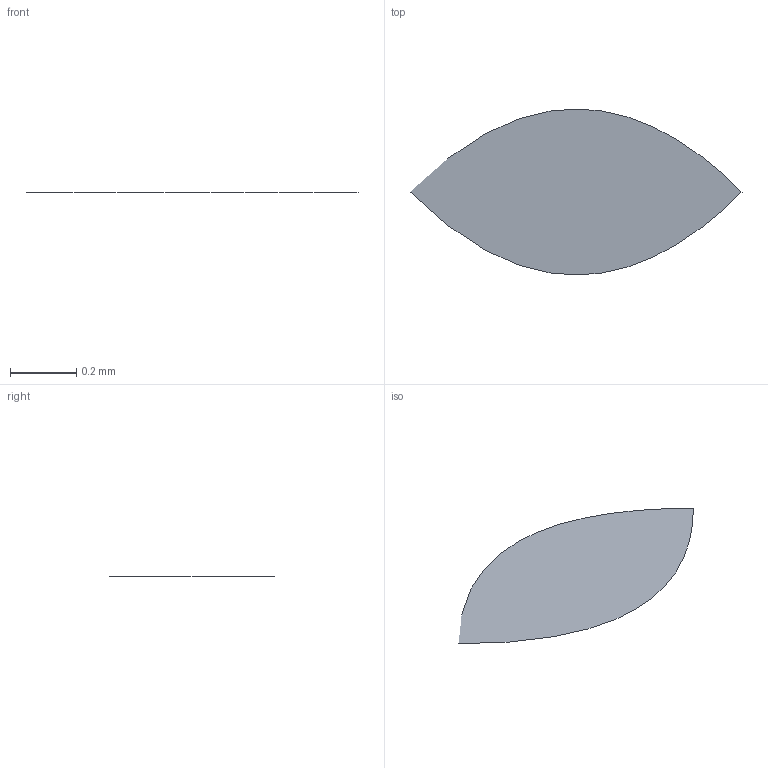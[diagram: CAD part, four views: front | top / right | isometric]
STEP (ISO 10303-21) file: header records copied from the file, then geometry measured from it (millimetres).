
FILE_DESCRIPTION(('BRL-CAD AP214 two-side singular corner fixture'),'2;1');
FILE_NAME('ap214_two_side_singular_corner.stp','2026-07-23T00:00:00',('BRL-CAD'),('BRL-CAD'),'','','');
FILE_SCHEMA(('AUTOMOTIVE_DESIGN { 1 0 10303 214 3 1 1 1 }'));
Length unit declared in the file: millimetre
Products named in the file (1): two_side_singular_corner
Bounding box: 1 x 0.5 x 0 mm (x, y, z)
Surface area: 0.3 mm2 (no closed solid volume)
Topology: 0 solids, 1 shells, 1 faces, 3 edges, 2 vertices
Faces by surface type: bspline 1
Entity records: 30 total; most frequent: CARTESIAN_POINT 5, VERTEX_POINT 2, B_SPLINE_CURVE_WITH_KNOTS 2, EDGE_CURVE 2, ORIENTED_EDGE 2, EDGE_LOOP 1, FACE_OUTER_BOUND 1, B_SPLINE_SURFACE_WITH_KNOTS 1
